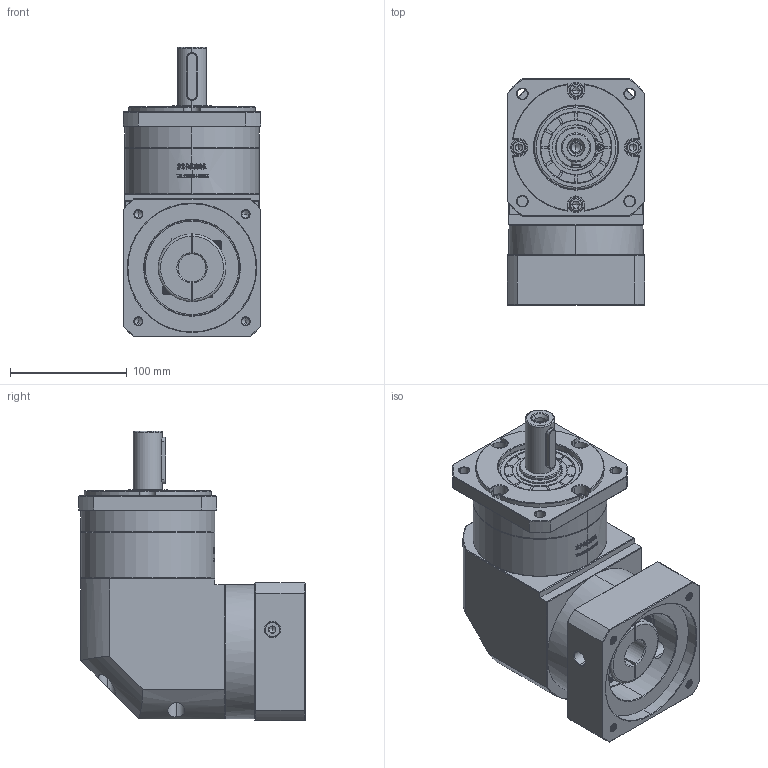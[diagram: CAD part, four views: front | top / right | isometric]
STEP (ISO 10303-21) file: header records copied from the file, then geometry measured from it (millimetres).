
FILE_DESCRIPTION (( 'STEP AP214' ), '1' );
FILE_NAME ('ZFR120A-D25-L1-24-110-130-M8.step', '2023-03-08T08:18:48', ( '' ), ( '' ), 'SwSTEP 2.0', 'SolidWorks 2016', '' );
FILE_SCHEMA (( 'AUTOMOTIVE_DESIGN' ));
Length unit declared in the file: millimetre
Products named in the file (1): ZFR120A-D25-L1-24-110-130-M8
Bounding box: 118 x 193.9 x 248 mm (x, y, z)
Volume: 2869715.6 mm3; surface area: 244218.3 mm2
Topology: 6 solids, 6 shells, 2870 faces, 7678 edges, 4953 vertices
Faces by surface type: plane 1484, bspline 606, cylinder 434, cone 338, torus 8
Entity records: 157839 total; most frequent: CARTESIAN_POINT 60442, ORIENTED_EDGE 15296, DIRECTION 11128, EDGE_CURVE 7648, VERTEX_POINT 4953, LINE 4750, VECTOR 4750, AXIS2_PLACEMENT_3D 3189
